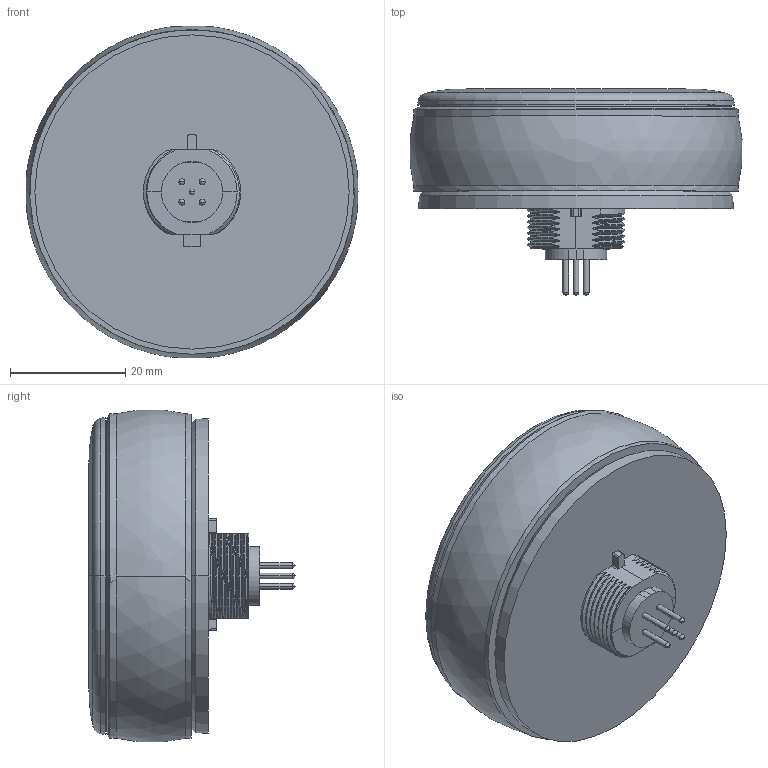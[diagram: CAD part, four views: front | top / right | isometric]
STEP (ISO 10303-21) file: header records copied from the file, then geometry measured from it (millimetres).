
FILE_DESCRIPTION((''),'2;1');
FILE_NAME('TEYY-X_MODELS','2022-10-17T',('kdooley'),(''),'PRO/ENGINEER BY PARAMETRIC TECHNOLOGY CORPORATION, 2016100','PRO/ENGINEER BY PARAMETRIC TECHNOLOGY CORPORATION, 2016100','');
FILE_SCHEMA(('CONFIG_CONTROL_DESIGN'));
Length unit declared in the file: inch
Products named in the file (1): TEYY-X_MODELS
Bounding box: 57.7 x 35.81 x 57.7 mm (x, y, z)
Volume: 53046.6 mm3; surface area: 9808.8 mm2
Topology: 1 solids, 13 shells, 257 faces, 669 edges, 437 vertices
Faces by surface type: bspline 93, cylinder 75, plane 36, cone 27, torus 14, sphere 10, revolution 2
Entity records: 11800 total; most frequent: CARTESIAN_POINT 6386, ORIENTED_EDGE 1318, DIRECTION 788, EDGE_CURVE 659, VERTEX_POINT 437, B_SPLINE_CURVE_WITH_KNOTS 364, AXIS2_PLACEMENT_3D 327, EDGE_LOOP 266
